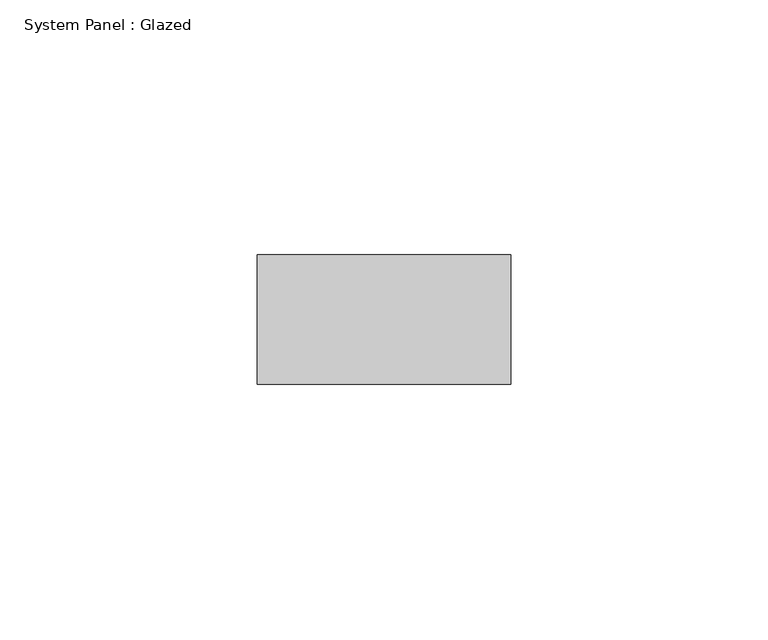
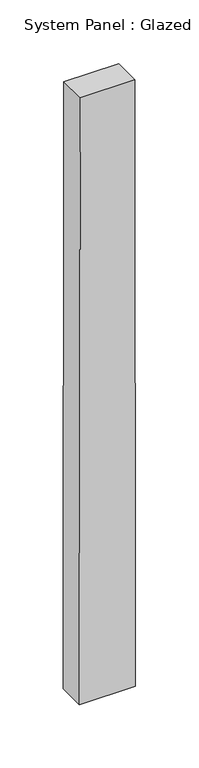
"""IFC4 building model written with IfcOpenShell, lengths in millimetres: plate geometry, System Panel : Glazed."""

from ifc_helpers import new_model, si_unit, frame, origin, place, context, project, spatial, polyline, outline, extrude, source, transform, mapped, element, save


def system_panel_glazed_a189dd2a(model_context):
    return source(origin(), model_context, "Body", "SweptSolid", [
        extrude(outline(polyline([(0.0, -25.3591835), (0.0, 25.3591835), (584.1997531, 24.8334148), (584.1997531, -24.8334148), (0.0, -25.3591835)])), frame((0.0, -44.45, 0.0), z_axis=(0.0, 1.0, 0.0), x_axis=(0.0, 0.0, 1.0)), (0.0, 0.0, 1.0), 25.4),
    ])


if __name__ == "__main__":
    model = new_model("IFC4")
    model_context = context("Model", 3, world=origin())
    ifc_project = project(units=[si_unit("LENGTHUNIT", "METRE", prefix="MILLI")], contexts=[model_context])
    site = spatial("IfcSite", under=ifc_project)
    building = spatial("IfcBuilding", under=site)
    placement = place(None, origin())
    system_panel_glazed_shape = system_panel_glazed_a189dd2a(model_context)
    element("IfcPlate", 1, ObjectType="System Panel : Glazed", at=placement, inside=building, context=model_context, shape_type="MappedRepresentation", body=[
        mapped(system_panel_glazed_shape, transform((0.0, 0.0, 0.0), x_axis=(1.0, 0.0, 0.0), y_axis=(0.0, 1.0, 0.0), z_axis=(0.0, 0.0, 1.0))),
    ])
    save(model, "model.ifc")
